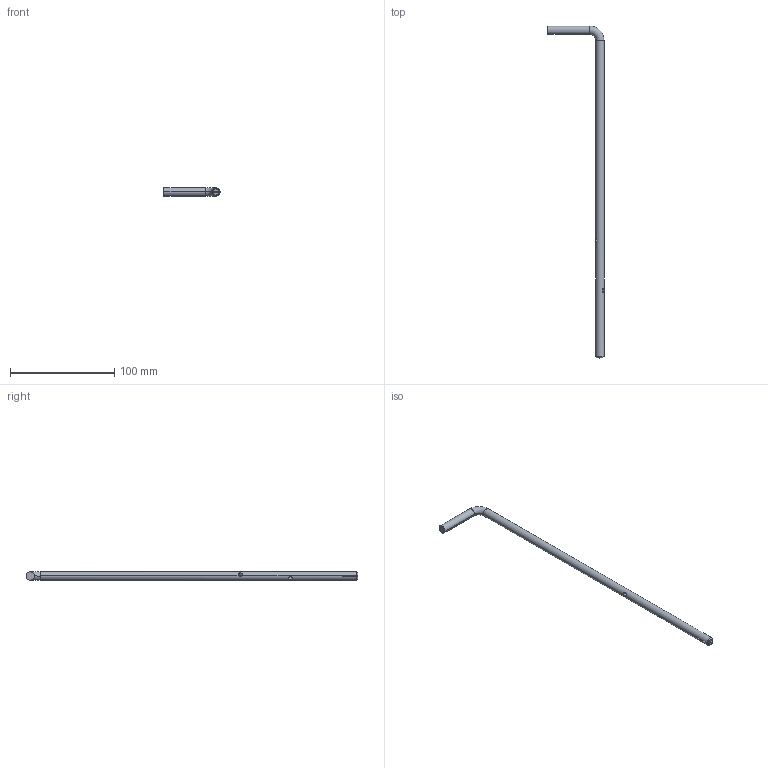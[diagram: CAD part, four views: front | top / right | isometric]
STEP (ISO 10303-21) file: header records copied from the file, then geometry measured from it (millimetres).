
FILE_DESCRIPTION(('CATIA V5 STEP Exchange'),'2;1');
FILE_NAME('D:\交接\张长江\21-Benz H6\光华荣昌转盘数据\H6 转盘\转盘用整椅数据 A9609109920\sample\H6 转盘夏季测试样件方案_20240617\样件数据\弹簧和钢丝\SHT0017294-103 主驾转盘解锁杆.stp','2024-06-19T07:53:54+00:00',('none'),('none'),'CATIA Version 5 Release 20 GA (IN-10)','CATIA V5 STEP AP203 Edition 2','none');
FILE_SCHEMA(('AP203_CONFIGURATION_CONTROLLED_3D_DESIGN_OF_MECHANICAL_PARTS_AND_ASSEMBLIES_MIM_LF { 1 0 10303 403 2 1 2}'));
Length unit declared in the file: millimetre
Products named in the file (1): SHT0017294-10
Bounding box: 54 x 319 x 8 mm (x, y, z)
Volume: 17766 mm3; surface area: 9473.2 mm2
Topology: 1 solids, 1 shells, 18 faces, 50 edges, 32 vertices
Faces by surface type: cylinder 8, plane 6, cone 2, torus 2
Entity records: 666 total; most frequent: CARTESIAN_POINT 227, ORIENTED_EDGE 100, DIRECTION 58, EDGE_CURVE 50, VERTEX_POINT 32, AXIS2_PLACEMENT_3D 29, EDGE_LOOP 20, VECTOR 18
